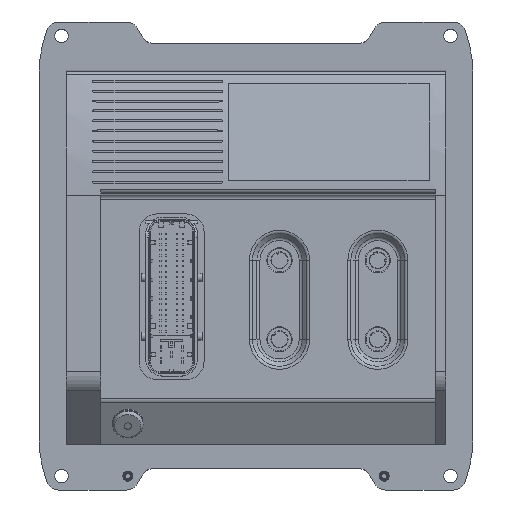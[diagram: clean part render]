
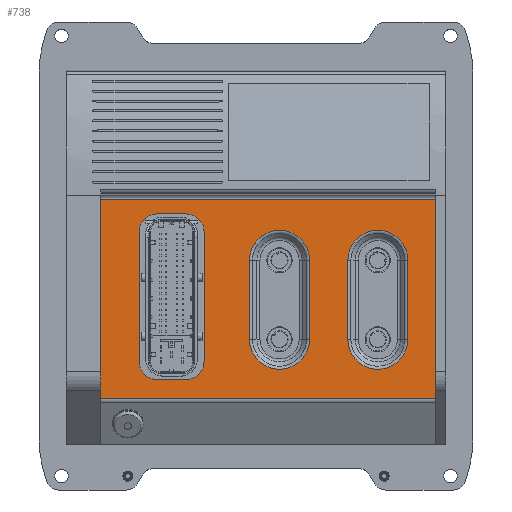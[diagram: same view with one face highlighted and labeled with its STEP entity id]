
A CAD part, top view. The second image highlights one B-rep face of the part: STEP entity #738.
In plain terms, the highlighted planar face has unit normal (0, 0, 1).
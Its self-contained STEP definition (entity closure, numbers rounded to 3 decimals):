
#738 = ADVANCED_FACE( '', ( #2535, #2536, #2537, #2538 ), #2539, .T. );
#2535 = FACE_BOUND( '', #4818, .T. );
#2536 = FACE_OUTER_BOUND( '', #4819, .T. );
#2537 = FACE_BOUND( '', #4820, .T. );
#2538 = FACE_BOUND( '', #4821, .T. );
#2539 = PLANE( '', #4822 );
#4818 = EDGE_LOOP( '', ( #10905, #10906, #10907, #10908, #10909, #10910, #10911, #10912 ) );
#4819 = EDGE_LOOP( '', ( #10913, #10914, #10915, #10916 ) );
#4820 = EDGE_LOOP( '', ( #10917, #10918, #10919, #10920 ) );
#4821 = EDGE_LOOP( '', ( #10921, #10922, #10923, #10924 ) );
#4822 = AXIS2_PLACEMENT_3D( '', #10925, #10926, #10927 );
#10905 = ORIENTED_EDGE( '', *, *, #14048, .F. );
#10906 = ORIENTED_EDGE( '', *, *, #14033, .F. );
#10907 = ORIENTED_EDGE( '', *, *, #14036, .F. );
#10908 = ORIENTED_EDGE( '', *, *, #14038, .F. );
#10909 = ORIENTED_EDGE( '', *, *, #14040, .F. );
#10910 = ORIENTED_EDGE( '', *, *, #14042, .F. );
#10911 = ORIENTED_EDGE( '', *, *, #14044, .F. );
#10912 = ORIENTED_EDGE( '', *, *, #14046, .F. );
#10913 = ORIENTED_EDGE( '', *, *, #15743, .F. );
#10914 = ORIENTED_EDGE( '', *, *, #15751, .F. );
#10915 = ORIENTED_EDGE( '', *, *, #15734, .T. );
#10916 = ORIENTED_EDGE( '', *, *, #15752, .T. );
#10917 = ORIENTED_EDGE( '', *, *, #15753, .F. );
#10918 = ORIENTED_EDGE( '', *, *, #15754, .T. );
#10919 = ORIENTED_EDGE( '', *, *, #15755, .T. );
#10920 = ORIENTED_EDGE( '', *, *, #15756, .T. );
#10921 = ORIENTED_EDGE( '', *, *, #15757, .F. );
#10922 = ORIENTED_EDGE( '', *, *, #15758, .T. );
#10923 = ORIENTED_EDGE( '', *, *, #15759, .T. );
#10924 = ORIENTED_EDGE( '', *, *, #15760, .T. );
#10925 = CARTESIAN_POINT( '', ( 84.21, -66.845, 29.75 ) );
#10926 = DIRECTION( '', ( 0., 0., 1. ) );
#10927 = DIRECTION( '', ( 1., 0., 0. ) );
#14033 = EDGE_CURVE( '', #16667, #16668, #16669, .T. );
#14036 = EDGE_CURVE( '', #16672, #16667, #16673, .T. );
#14038 = EDGE_CURVE( '', #16675, #16672, #16676, .T. );
#14040 = EDGE_CURVE( '', #16678, #16675, #16679, .T. );
#14042 = EDGE_CURVE( '', #16681, #16678, #16682, .T. );
#14044 = EDGE_CURVE( '', #16684, #16681, #16685, .T. );
#14046 = EDGE_CURVE( '', #16687, #16684, #16688, .T. );
#14048 = EDGE_CURVE( '', #16668, #16687, #16690, .T. );
#15734 = EDGE_CURVE( '', #19526, #19524, #19527, .T. );
#15743 = EDGE_CURVE( '', #19542, #19544, #19545, .T. );
#15751 = EDGE_CURVE( '', #19526, #19542, #19557, .T. );
#15752 = EDGE_CURVE( '', #19524, #19544, #19558, .T. );
#15753 = EDGE_CURVE( '', #19559, #19560, #19561, .T. );
#15754 = EDGE_CURVE( '', #19559, #19562, #19563, .T. );
#15755 = EDGE_CURVE( '', #19562, #19564, #19565, .T. );
#15756 = EDGE_CURVE( '', #19564, #19560, #19566, .T. );
#15757 = EDGE_CURVE( '', #19567, #19568, #19569, .T. );
#15758 = EDGE_CURVE( '', #19567, #19570, #19571, .T. );
#15759 = EDGE_CURVE( '', #19570, #19572, #19573, .T. );
#15760 = EDGE_CURVE( '', #19572, #19568, #19574, .T. );
#16667 = VERTEX_POINT( '', #21015 );
#16668 = VERTEX_POINT( '', #21016 );
#16669 = CIRCLE( '', #21017, 8.15 );
#16672 = VERTEX_POINT( '', #21022 );
#16673 = LINE( '', #21023, #21024 );
#16675 = VERTEX_POINT( '', #21027 );
#16676 = CIRCLE( '', #21028, 8.15 );
#16678 = VERTEX_POINT( '', #21031 );
#16679 = LINE( '', #21032, #21033 );
#16681 = VERTEX_POINT( '', #21036 );
#16682 = CIRCLE( '', #21037, 8.15 );
#16684 = VERTEX_POINT( '', #21040 );
#16685 = LINE( '', #21041, #21042 );
#16687 = VERTEX_POINT( '', #21045 );
#16688 = CIRCLE( '', #21046, 8.15 );
#16690 = LINE( '', #21049, #21050 );
#19524 = VERTEX_POINT( '', #25526 );
#19526 = VERTEX_POINT( '', #25528 );
#19527 = LINE( '', #25529, #25530 );
#19542 = VERTEX_POINT( '', #25549 );
#19544 = VERTEX_POINT( '', #25551 );
#19545 = LINE( '', #25552, #25553 );
#19557 = LINE( '', #25569, #25570 );
#19558 = LINE( '', #25571, #25572 );
#19559 = VERTEX_POINT( '', #25573 );
#19560 = VERTEX_POINT( '', #25574 );
#19561 = LINE( '', #25575, #25576 );
#19562 = VERTEX_POINT( '', #25577 );
#19563 = CIRCLE( '', #25578, 14.028 );
#19564 = VERTEX_POINT( '', #25579 );
#19565 = LINE( '', #25580, #25581 );
#19566 = CIRCLE( '', #25582, 14.028 );
#19567 = VERTEX_POINT( '', #25583 );
#19568 = VERTEX_POINT( '', #25584 );
#19569 = LINE( '', #25585, #25586 );
#19570 = VERTEX_POINT( '', #25587 );
#19571 = CIRCLE( '', #25588, 14.028 );
#19572 = VERTEX_POINT( '', #25589 );
#19573 = LINE( '', #25590, #25591 );
#19574 = CIRCLE( '', #25592, 14.028 );
#21015 = CARTESIAN_POINT( '', ( -46.55, 19.65, 29.75 ) );
#21016 = CARTESIAN_POINT( '', ( -54.7, 11.5, 29.75 ) );
#21017 = AXIS2_PLACEMENT_3D( '', #27740, #27741, #27742 );
#21022 = CARTESIAN_POINT( '', ( -32.45, 19.65, 29.75 ) );
#21023 = CARTESIAN_POINT( '', ( -32.45, 19.65, 29.75 ) );
#21024 = VECTOR( '', #27745, 1000. );
#21027 = CARTESIAN_POINT( '', ( -24.3, 11.5, 29.75 ) );
#21028 = AXIS2_PLACEMENT_3D( '', #27747, #27748, #27749 );
#21031 = CARTESIAN_POINT( '', ( -24.3, -49.6, 29.75 ) );
#21032 = CARTESIAN_POINT( '', ( -24.3, -49.6, 29.75 ) );
#21033 = VECTOR( '', #27751, 1000. );
#21036 = CARTESIAN_POINT( '', ( -32.45, -57.75, 29.75 ) );
#21037 = AXIS2_PLACEMENT_3D( '', #27753, #27754, #27755 );
#21040 = CARTESIAN_POINT( '', ( -46.55, -57.75, 29.75 ) );
#21041 = CARTESIAN_POINT( '', ( -46.55, -57.75, 29.75 ) );
#21042 = VECTOR( '', #27757, 1000. );
#21045 = CARTESIAN_POINT( '', ( -54.7, -49.6, 29.75 ) );
#21046 = AXIS2_PLACEMENT_3D( '', #27759, #27760, #27761 );
#21049 = CARTESIAN_POINT( '', ( -54.7, 11.5, 29.75 ) );
#21050 = VECTOR( '', #27763, 1000. );
#25526 = CARTESIAN_POINT( '', ( 84.21, 26.575, 29.75 ) );
#25528 = CARTESIAN_POINT( '', ( 84.21, -66.845, 29.75 ) );
#25529 = CARTESIAN_POINT( '', ( 84.21, -66.845, 29.75 ) );
#25530 = VECTOR( '', #29686, 1000. );
#25549 = CARTESIAN_POINT( '', ( -72.71, -66.845, 29.75 ) );
#25551 = CARTESIAN_POINT( '', ( -72.71, 26.575, 29.75 ) );
#25552 = CARTESIAN_POINT( '', ( -72.71, -66.845, 29.75 ) );
#25553 = VECTOR( '', #29703, 1000. );
#25569 = CARTESIAN_POINT( '', ( 84.21, -66.845, 29.75 ) );
#25570 = VECTOR( '', #29717, 1000. );
#25571 = CARTESIAN_POINT( '', ( 84.21, 26.575, 29.75 ) );
#25572 = VECTOR( '', #29718, 1000. );
#25573 = CARTESIAN_POINT( '', ( 25.028, -39., 29.75 ) );
#25574 = CARTESIAN_POINT( '', ( 25.028, -2., 29.75 ) );
#25575 = CARTESIAN_POINT( '', ( 25.028, -39., 29.75 ) );
#25576 = VECTOR( '', #29719, 1000. );
#25577 = CARTESIAN_POINT( '', ( -3.028, -39., 29.75 ) );
#25578 = AXIS2_PLACEMENT_3D( '', #29720, #29721, #29722 );
#25579 = CARTESIAN_POINT( '', ( -3.028, -2., 29.75 ) );
#25580 = CARTESIAN_POINT( '', ( -3.028, -39., 29.75 ) );
#25581 = VECTOR( '', #29723, 1000. );
#25582 = AXIS2_PLACEMENT_3D( '', #29724, #29725, #29726 );
#25583 = CARTESIAN_POINT( '', ( 71.028, -39., 29.75 ) );
#25584 = CARTESIAN_POINT( '', ( 71.028, -2., 29.75 ) );
#25585 = CARTESIAN_POINT( '', ( 71.028, -39., 29.75 ) );
#25586 = VECTOR( '', #29727, 1000. );
#25587 = CARTESIAN_POINT( '', ( 42.972, -39., 29.75 ) );
#25588 = AXIS2_PLACEMENT_3D( '', #29728, #29729, #29730 );
#25589 = CARTESIAN_POINT( '', ( 42.972, -2., 29.75 ) );
#25590 = CARTESIAN_POINT( '', ( 42.972, -39., 29.75 ) );
#25591 = VECTOR( '', #29731, 1000. );
#25592 = AXIS2_PLACEMENT_3D( '', #29732, #29733, #29734 );
#27740 = CARTESIAN_POINT( '', ( -46.55, 11.5, 29.75 ) );
#27741 = DIRECTION( '', ( 0., 0., 1. ) );
#27742 = DIRECTION( '', ( 1., 0., 0. ) );
#27745 = DIRECTION( '', ( -1., 0., 0. ) );
#27747 = CARTESIAN_POINT( '', ( -32.45, 11.5, 29.75 ) );
#27748 = DIRECTION( '', ( 0., 0., 1. ) );
#27749 = DIRECTION( '', ( 1., 0., 0. ) );
#27751 = DIRECTION( '', ( 0., 1., 0. ) );
#27753 = CARTESIAN_POINT( '', ( -32.45, -49.6, 29.75 ) );
#27754 = DIRECTION( '', ( 0., 0., 1. ) );
#27755 = DIRECTION( '', ( 1., 0., 0. ) );
#27757 = DIRECTION( '', ( 1., 0., 0. ) );
#27759 = CARTESIAN_POINT( '', ( -46.55, -49.6, 29.75 ) );
#27760 = DIRECTION( '', ( 0., 0., 1. ) );
#27761 = DIRECTION( '', ( 1., 0., 0. ) );
#27763 = DIRECTION( '', ( 0., -1., 0. ) );
#29686 = DIRECTION( '', ( 0., 1., 0. ) );
#29703 = DIRECTION( '', ( 0., 1., 0. ) );
#29717 = DIRECTION( '', ( -1., 0., 0. ) );
#29718 = DIRECTION( '', ( -1., 0., 0. ) );
#29719 = DIRECTION( '', ( 0., 1., 0. ) );
#29720 = CARTESIAN_POINT( '', ( 11., -39., 29.75 ) );
#29721 = DIRECTION( '', ( 0., 0., -1. ) );
#29722 = DIRECTION( '', ( -1., 0., 0. ) );
#29723 = DIRECTION( '', ( 0., 1., 0. ) );
#29724 = CARTESIAN_POINT( '', ( 11., -2., 29.75 ) );
#29725 = DIRECTION( '', ( 0., 0., -1. ) );
#29726 = DIRECTION( '', ( -1., 0., 0. ) );
#29727 = DIRECTION( '', ( 0., 1., 0. ) );
#29728 = CARTESIAN_POINT( '', ( 57., -39., 29.75 ) );
#29729 = DIRECTION( '', ( 0., 0., -1. ) );
#29730 = DIRECTION( '', ( -1., 0., 0. ) );
#29731 = DIRECTION( '', ( 0., 1., 0. ) );
#29732 = CARTESIAN_POINT( '', ( 57., -2., 29.75 ) );
#29733 = DIRECTION( '', ( 0., 0., -1. ) );
#29734 = DIRECTION( '', ( -1., 0., 0. ) );
